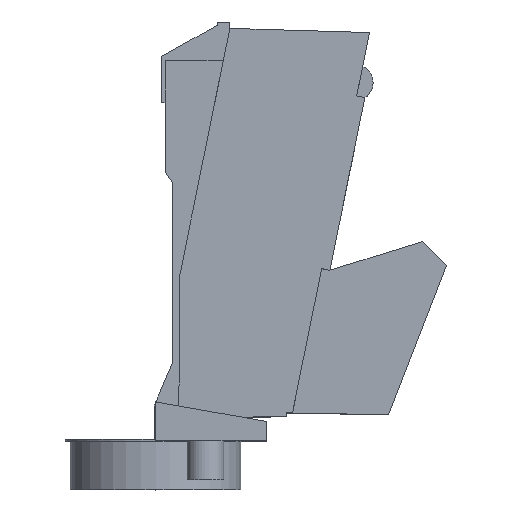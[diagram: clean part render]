
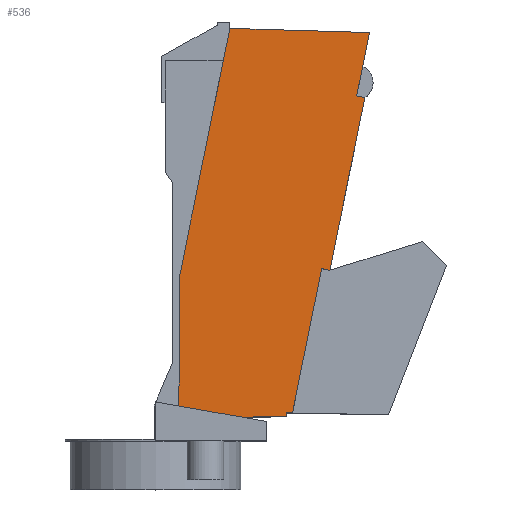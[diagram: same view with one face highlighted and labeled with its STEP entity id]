
A CAD part, top view. The second image highlights one B-rep face of the part: STEP entity #536.
In plain terms, the highlighted planar face has unit normal (0, 0, 1).
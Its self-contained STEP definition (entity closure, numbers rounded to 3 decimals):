
#10 = AXIS2_PLACEMENT_3D ( 'NONE', #978, #984, #985 ) ;
#101 = AXIS2_PLACEMENT_3D ( 'NONE', #1651, #1648, #1647 ) ;
#166 = EDGE_CURVE ( 'NONE', #1728, #1759, #662, .T. ) ;
#167 = EDGE_CURVE ( 'NONE', #1712, #1724, #663, .T. ) ;
#168 = EDGE_CURVE ( 'NONE', #1724, #1720, #661, .T. ) ;
#169 = EDGE_CURVE ( 'NONE', #1755, #1728, #659, .T. ) ;
#170 = EDGE_CURVE ( 'NONE', #1749, #1755, #657, .T. ) ;
#171 = EDGE_CURVE ( 'NONE', #1759, #1712, #655, .T. ) ;
#172 = EDGE_CURVE ( 'NONE', #1720, #1727, #653, .T. ) ;
#173 = EDGE_CURVE ( 'NONE', #1727, #1732, #651, .T. ) ;
#174 = EDGE_CURVE ( 'NONE', #1741, #1732, #649, .T. ) ;
#175 = EDGE_CURVE ( 'NONE', #1743, #1741, #647, .T. ) ;
#176 = EDGE_CURVE ( 'NONE', #1743, #1735, #678, .T. ) ;
#177 = EDGE_CURVE ( 'NONE', #1735, #1762, #643, .T. ) ;
#178 = EDGE_CURVE ( 'NONE', #1762, #1749, #641, .T. ) ;
#292 = FACE_OUTER_BOUND ( 'NONE', #783, .T. ) ;
#536 = ADVANCED_FACE ( 'NONE', ( #292 ), #975, .T. ) ;
#640 = VECTOR ( 'NONE', #1614, 1000. ) ;
#641 = LINE ( 'NONE', #1615, #640 ) ;
#642 = VECTOR ( 'NONE', #1617, 1000. ) ;
#643 = LINE ( 'NONE', #1618, #642 ) ;
#645 = VECTOR ( 'NONE', #1620, 1000. ) ;
#646 = VECTOR ( 'NONE', #1623, 1000. ) ;
#647 = LINE ( 'NONE', #1624, #646 ) ;
#648 = VECTOR ( 'NONE', #1625, 1000. ) ;
#649 = LINE ( 'NONE', #1626, #648 ) ;
#650 = VECTOR ( 'NONE', #1627, 1000. ) ;
#651 = LINE ( 'NONE', #1628, #650 ) ;
#652 = VECTOR ( 'NONE', #1629, 1000. ) ;
#653 = LINE ( 'NONE', #1630, #652 ) ;
#654 = VECTOR ( 'NONE', #1633, 1000. ) ;
#655 = LINE ( 'NONE', #1634, #654 ) ;
#656 = VECTOR ( 'NONE', #1636, 1000. ) ;
#657 = LINE ( 'NONE', #1637, #656 ) ;
#658 = VECTOR ( 'NONE', #1638, 1000. ) ;
#659 = LINE ( 'NONE', #1639, #658 ) ;
#660 = VECTOR ( 'NONE', #1640, 1000. ) ;
#661 = LINE ( 'NONE', #1643, #660 ) ;
#662 = CIRCLE ( 'NONE', #101, 3. ) ;
#663 = LINE ( 'NONE', #1655, #665 ) ;
#665 = VECTOR ( 'NONE', #1644, 1000. ) ;
#678 = LINE ( 'NONE', #1646, #645 ) ;
#727 = ORIENTED_EDGE ( 'NONE', *, *, #170, .T. ) ;
#735 = ORIENTED_EDGE ( 'NONE', *, *, #166, .T. ) ;
#783 = EDGE_LOOP ( 'NONE', ( #727, #845, #735, #858, #2127, #2125, #2123, #2124, #2122, #2121, #2120, #2119, #2118 ) ) ;
#845 = ORIENTED_EDGE ( 'NONE', *, *, #169, .T. ) ;
#858 = ORIENTED_EDGE ( 'NONE', *, *, #171, .T. ) ;
#975 = PLANE ( 'NONE',  #10 ) ;
#978 = CARTESIAN_POINT ( 'NONE',  ( 20.368, 1.92, 12.1 ) ) ;
#984 = DIRECTION ( 'NONE',  ( 0., 0., 1. ) ) ;
#985 = DIRECTION ( 'NONE',  ( 1., 0., 0. ) ) ;
#1090 = CARTESIAN_POINT ( 'NONE',  ( 29.38, 5.02, 12.1 ) ) ;
#1093 = CARTESIAN_POINT ( 'NONE',  ( 30.613, 5.763, 12.1 ) ) ;
#1094 = CARTESIAN_POINT ( 'NONE',  ( 29.38, 5.785, 12.1 ) ) ;
#1095 = CARTESIAN_POINT ( 'NONE',  ( 36.633, 35.43, 12.1 ) ) ;
#1096 = CARTESIAN_POINT ( 'NONE',  ( 20.1, 4.908, 12.1 ) ) ;
#1097 = CARTESIAN_POINT ( 'NONE',  ( 38.299, 35.092, 12.1 ) ) ;
#1098 = CARTESIAN_POINT ( 'NONE',  ( 46.47, 83.91, 12.1 ) ) ;
#1100 = CARTESIAN_POINT ( 'NONE',  ( 45.494, 70.551, 12.1 ) ) ;
#1101 = CARTESIAN_POINT ( 'NONE',  ( 43.828, 70.889, 12.1 ) ) ;
#1103 = CARTESIAN_POINT ( 'NONE',  ( 7.52, 34.28, 12.1 ) ) ;
#1105 = CARTESIAN_POINT ( 'NONE',  ( 7.279, 7.169, 12.1 ) ) ;
#1106 = CARTESIAN_POINT ( 'NONE',  ( 20.335, 4.92, 12.1 ) ) ;
#1107 = CARTESIAN_POINT ( 'NONE',  ( 17.765, 84.772, 12.1 ) ) ;
#1614 = DIRECTION ( 'NONE',  ( -0.199, -0.98, 0. ) ) ;
#1615 = CARTESIAN_POINT ( 'NONE',  ( 17.765, 84.772, 12.1 ) ) ;
#1617 = DIRECTION ( 'NONE',  ( -1., 0.03, 0. ) ) ;
#1618 = CARTESIAN_POINT ( 'NONE',  ( 17.765, 84.772, 12.1 ) ) ;
#1620 = DIRECTION ( 'NONE',  ( 0.199, 0.98, 0. ) ) ;
#1623 = DIRECTION ( 'NONE',  ( 0.98, -0.199, 0. ) ) ;
#1624 = CARTESIAN_POINT ( 'NONE',  ( 8.032, 78.152, 12.1 ) ) ;
#1625 = DIRECTION ( 'NONE',  ( -0.199, -0.98, 0. ) ) ;
#1626 = CARTESIAN_POINT ( 'NONE',  ( 38.299, 35.092, 12.1 ) ) ;
#1627 = DIRECTION ( 'NONE',  ( 0.98, -0.199, 0. ) ) ;
#1628 = CARTESIAN_POINT ( 'NONE',  ( 0.838, 42.693, 12.1 ) ) ;
#1629 = DIRECTION ( 'NONE',  ( 0.199, 0.98, 0. ) ) ;
#1630 = CARTESIAN_POINT ( 'NONE',  ( 45.06, 76.962, 12.1 ) ) ;
#1633 = DIRECTION ( 'NONE',  ( 1., 0.011, 0. ) ) ;
#1634 = CARTESIAN_POINT ( 'NONE',  ( 20.335, 4.92, 12.1 ) ) ;
#1636 = DIRECTION ( 'NONE',  ( -0.009, -1., 0. ) ) ;
#1637 = CARTESIAN_POINT ( 'NONE',  ( 7.215, 0., 12.1 ) ) ;
#1638 = DIRECTION ( 'NONE',  ( 0.985, -0.174, 0. ) ) ;
#1639 = CARTESIAN_POINT ( 'NONE',  ( 20.871, 4.772, 12.1 ) ) ;
#1640 = DIRECTION ( 'NONE',  ( 1., -0.017, 0. ) ) ;
#1643 = CARTESIAN_POINT ( 'NONE',  ( 29.38, 5.785, 12.1 ) ) ;
#1644 = DIRECTION ( 'NONE',  ( 0., 1., 0. ) ) ;
#1646 = CARTESIAN_POINT ( 'NONE',  ( 45.06, 76.962, 12.1 ) ) ;
#1647 = DIRECTION ( 'NONE',  ( 1., 0., 0. ) ) ;
#1648 = DIRECTION ( 'NONE',  ( 0., 0., -1. ) ) ;
#1651 = CARTESIAN_POINT ( 'NONE',  ( 20.368, 1.92, 12.1 ) ) ;
#1655 = CARTESIAN_POINT ( 'NONE',  ( 29.38, 5.02, 12.1 ) ) ;
#1712 = VERTEX_POINT ( 'NONE', #1090 ) ;
#1720 = VERTEX_POINT ( 'NONE', #1093 ) ;
#1724 = VERTEX_POINT ( 'NONE', #1094 ) ;
#1727 = VERTEX_POINT ( 'NONE', #1095 ) ;
#1728 = VERTEX_POINT ( 'NONE', #1096 ) ;
#1732 = VERTEX_POINT ( 'NONE', #1097 ) ;
#1735 = VERTEX_POINT ( 'NONE', #1098 ) ;
#1741 = VERTEX_POINT ( 'NONE', #1100 ) ;
#1743 = VERTEX_POINT ( 'NONE', #1101 ) ;
#1749 = VERTEX_POINT ( 'NONE', #1103 ) ;
#1755 = VERTEX_POINT ( 'NONE', #1105 ) ;
#1759 = VERTEX_POINT ( 'NONE', #1106 ) ;
#1762 = VERTEX_POINT ( 'NONE', #1107 ) ;
#2118 = ORIENTED_EDGE ( 'NONE', *, *, #178, .T. ) ;
#2119 = ORIENTED_EDGE ( 'NONE', *, *, #177, .T. ) ;
#2120 = ORIENTED_EDGE ( 'NONE', *, *, #176, .T. ) ;
#2121 = ORIENTED_EDGE ( 'NONE', *, *, #175, .F. ) ;
#2122 = ORIENTED_EDGE ( 'NONE', *, *, #174, .F. ) ;
#2123 = ORIENTED_EDGE ( 'NONE', *, *, #172, .T. ) ;
#2124 = ORIENTED_EDGE ( 'NONE', *, *, #173, .T. ) ;
#2125 = ORIENTED_EDGE ( 'NONE', *, *, #168, .T. ) ;
#2127 = ORIENTED_EDGE ( 'NONE', *, *, #167, .T. ) ;
